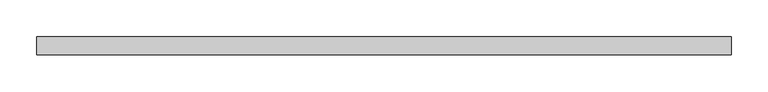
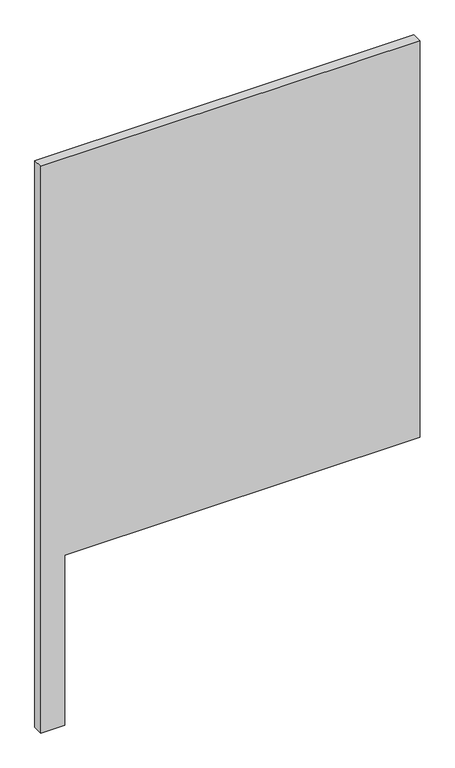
"""IFC4 building model written with IfcOpenShell, lengths in millimetres: plate geometry, Системная панель : С остеклением."""

from ifc_helpers import new_model, si_unit, frame, origin, place, context, project, spatial, polyline, outline, extrude, source, transform, mapped, element, save


def plate_0085ea7b(model_context):
    return source(origin(), model_context, "Body", "SweptSolid", [
        extrude(outline(polyline([(0.0, -475.0), (0.0, -415.0), (450.0, -415.0), (450.0, 475.0), (1500.0, 475.0), (1500.0, -475.0), (0.0, -475.0)])), frame((0.0, 24.5, 0.0), z_axis=(0.0, 1.0, 0.0), x_axis=(0.0, 0.0, 1.0)), (0.0, 0.0, 1.0), 25.0),
    ])


if __name__ == "__main__":
    model = new_model("IFC4")
    model_context = context("Model", 3, world=origin())
    ifc_project = project(units=[si_unit("LENGTHUNIT", "METRE", prefix="MILLI")], contexts=[model_context])
    site = spatial("IfcSite", under=ifc_project)
    building = spatial("IfcBuilding", under=site)
    placement = place(None, origin())
    plate_shape = plate_0085ea7b(model_context)
    element("IfcPlate", 1, ObjectType="Системная панель : С остеклением", at=placement, inside=building, context=model_context, shape_type="MappedRepresentation", body=[
        mapped(plate_shape, transform((0.0, 0.0, 0.0), x_axis=(1.0, 0.0, 0.0), y_axis=(0.0, 1.0, 0.0), z_axis=(0.0, 0.0, 1.0))),
    ])
    save(model, "model.ifc")
